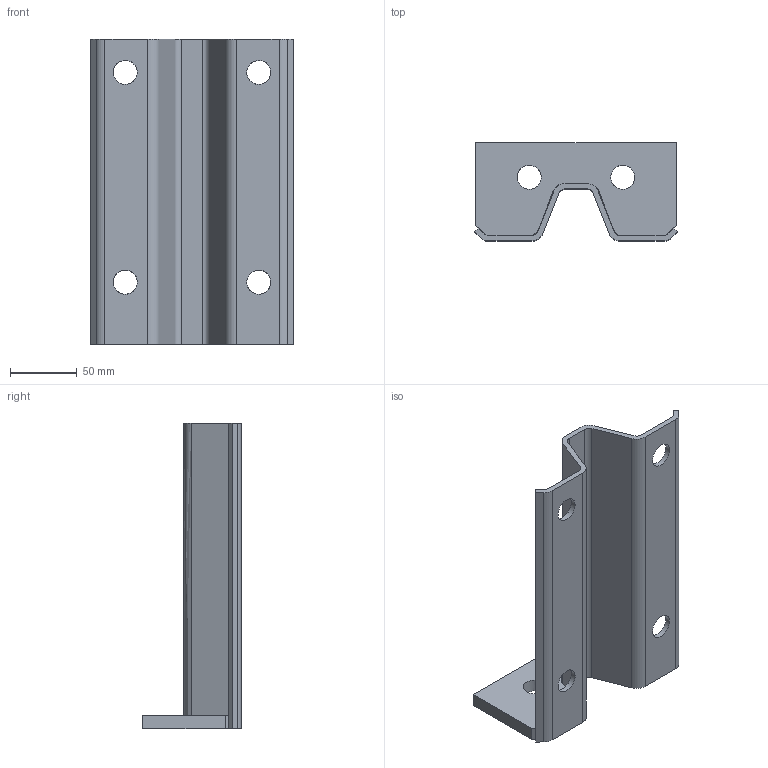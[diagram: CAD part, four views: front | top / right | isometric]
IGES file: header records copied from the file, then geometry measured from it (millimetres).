
Global section: file name: ZB240W70; native system: Autodesk RealDWG; preprocessor: Autodesk Translation Framework DWG producer (atf_dwg_producer); organization: unknown; date: 20230703.112225; units: centimetre
Bounding box: 151.72 x 74 x 229 mm (x, y, z)
Volume: 262082.9 mm3; surface area: 115419.4 mm2
Topology: 1 solids, 1 shells, 54 faces, 164 edges, 108 vertices
Faces by surface type: bspline 54
